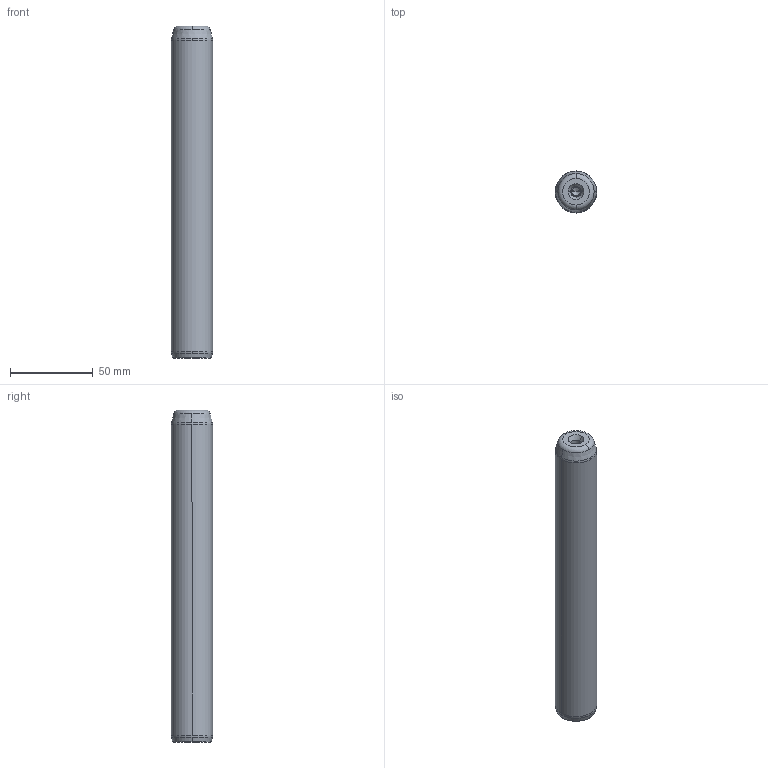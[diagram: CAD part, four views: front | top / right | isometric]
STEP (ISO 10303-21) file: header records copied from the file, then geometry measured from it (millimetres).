
FILE_DESCRIPTION((''),'2;1');
FILE_NAME('P10_025_200.stp','2008-12-23T14:55:21',(''),(''),'Mechanical Desktop 2009','Mechanical Desktop 2009',', , ');
FILE_SCHEMA(('CONFIG_CONTROL_DESIGN'));
Length unit declared in the file: millimetre
Products named in the file (5): Product; ProductAA; blmdl1; ProductA; blmdl1A
Assembly tree (2 placements, depth 3):
  Product
    ProductAA
      blmdl1
  ProductA
  blmdl1A
Bounding box: 25 x 25 x 200 mm (x, y, z)
Volume: 96806.1 mm3; surface area: 16710.9 mm2
Topology: 1 solids, 1 shells, 26 faces, 66 edges, 41 vertices
Faces by surface type: cone 10, torus 8, cylinder 6, plane 2
Entity records: 1012 total; most frequent: DIRECTION 170, CARTESIAN_POINT 134, ORIENTED_EDGE 128, AXIS2_PLACEMENT_3D 77, EDGE_CURVE 64, CIRCLE 48, VERTEX_POINT 41, EDGE_LOOP 27
